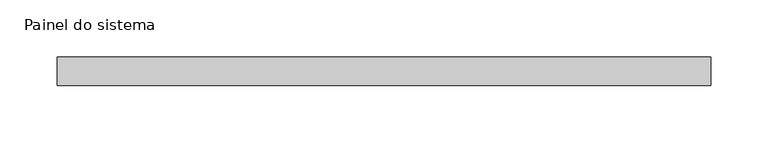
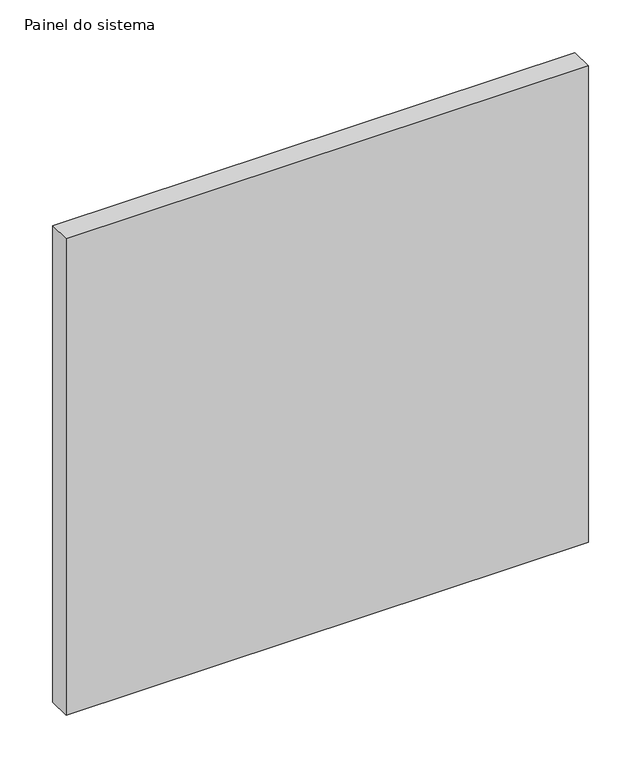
"""IFC4 building model written with IfcOpenShell, lengths in millimetres: plate geometry, Painel do sistema : Envidraçado."""

from ifc_helpers import new_model, si_unit, origin, origin_with_axes, place, context, project, spatial, polyline, outline, extrude, source, transform, mapped, element, save


def painel_do_sistema_e6fc4d10(model_context):
    return source(origin(), model_context, "Body", "SweptSolid", [
        extrude(outline(polyline([(285.4166667, 24.5), (-285.4166667, 24.5), (-285.4166667, 49.5), (285.4166667, 49.5), (285.4166667, 24.5)])), origin_with_axes(), (0.0, 0.0, 1.0), 550.0),
    ])


if __name__ == "__main__":
    model = new_model("IFC4")
    model_context = context("Model", 3, world=origin())
    ifc_project = project(units=[si_unit("LENGTHUNIT", "METRE", prefix="MILLI")], contexts=[model_context])
    site = spatial("IfcSite", under=ifc_project)
    building = spatial("IfcBuilding", under=site)
    placement = place(None, origin())
    painel_do_sistema_shape = painel_do_sistema_e6fc4d10(model_context)
    element("IfcPlate", 1, ObjectType="Painel do sistema : Envidraçado", at=placement, inside=building, context=model_context, shape_type="MappedRepresentation", body=[
        mapped(painel_do_sistema_shape, transform((0.0, 0.0, 0.0), x_axis=(1.0, 0.0, 0.0), y_axis=(0.0, 1.0, 0.0), z_axis=(0.0, 0.0, 1.0))),
    ])
    save(model, "model.ifc")
